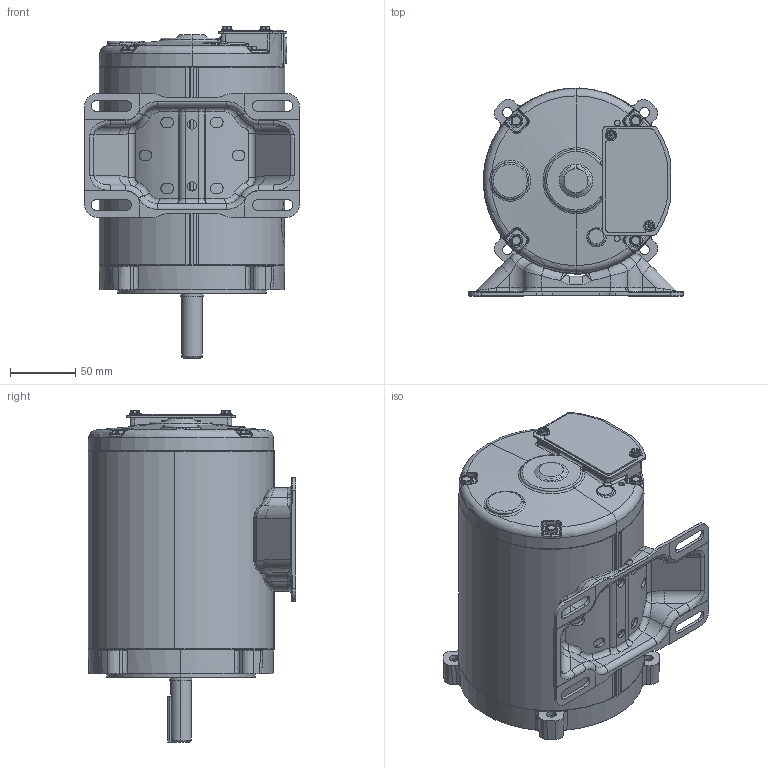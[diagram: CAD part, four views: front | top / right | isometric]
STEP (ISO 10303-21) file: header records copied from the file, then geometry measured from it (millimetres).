
FILE_DESCRIPTION (( 'STEP AP203' ), '1' );
FILE_NAME ('031766-600_Rev00.STEP', '2018-10-26T11:13:34', ( '' ), ( '' ), 'SwSTEP 2.0', 'SolidWorks 2015', '' );
FILE_SCHEMA (( 'CONFIG_CONTROL_DESIGN' ));
Length unit declared in the file: inch
Products named in the file (1): 031766-600_Rev00
Bounding box: 165.1 x 159.72 x 255.22 mm (x, y, z)
Volume: 430141.3 mm3; surface area: 360875.2 mm2
Topology: 22 solids, 22 shells, 2560 faces, 6156 edges, 3628 vertices
Faces by surface type: bspline 692, plane 648, cylinder 462, cone 322, torus 316, sphere 120
Entity records: 100233 total; most frequent: CARTESIAN_POINT 45828, ORIENTED_EDGE 12108, DIRECTION 10555, EDGE_CURVE 6054, AXIS2_PLACEMENT_3D 4472, VERTEX_POINT 3628, EDGE_LOOP 2710, CIRCLE 2603
